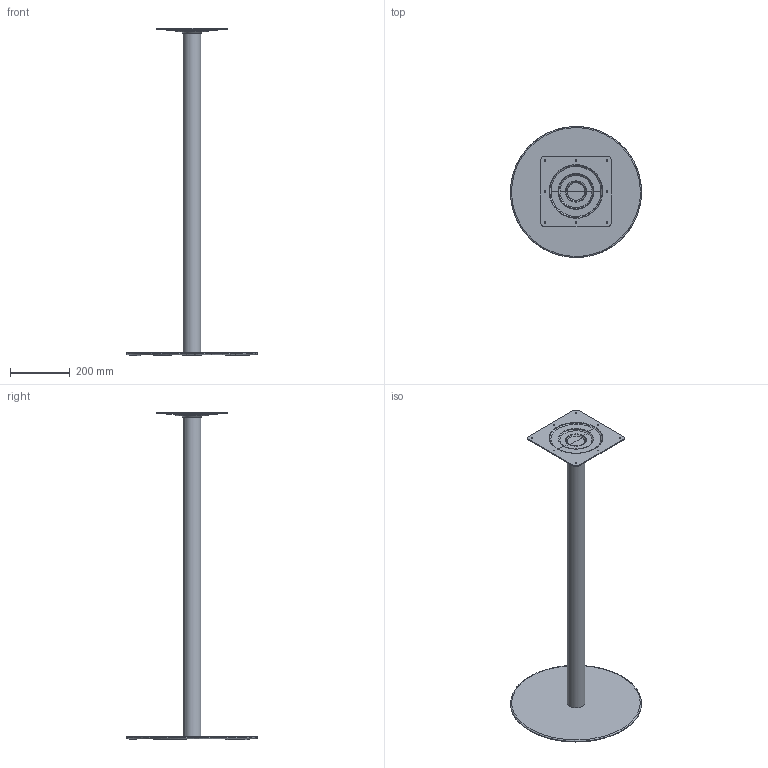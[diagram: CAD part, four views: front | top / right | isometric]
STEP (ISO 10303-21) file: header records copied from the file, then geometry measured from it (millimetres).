
FILE_DESCRIPTION(/* description */ (''),/* implementation_level */ '2;1');
FILE_NAME(/* name */ 'cl25a',/* time_stamp */ '2026-07-24T19:32:12+09:00',/* author */ (''),/* organization */ (''),/* preprocessor_version */ 'ST-DEVELOPER v16.5',/* originating_system */ '',/* authorisation */ '');
FILE_SCHEMA (('AUTOMOTIVE_DESIGN'));
Length unit declared in the file: millimetre
Products named in the file (1): Document
Bounding box: 439.98 x 439.45 x 1100 mm (x, y, z)
Volume: 4536023.5 mm3; surface area: 629436.7 mm2
Topology: 1 solids, 1 shells, 103 faces, 231 edges, 138 vertices
Faces by surface type: bspline 73, plane 30
Entity records: 5288 total; most frequent: CARTESIAN_POINT 3931, ORIENTED_EDGE 462, EDGE_CURVE 231, VERTEX_POINT 138, EDGE_LOOP 127, ADVANCED_FACE 103, FACE_OUTER_BOUND 103, B_SPLINE_CURVE_WITH_KNOTS 45
